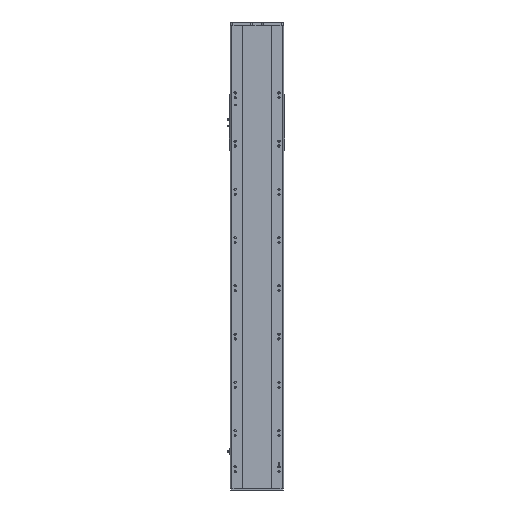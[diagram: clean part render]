
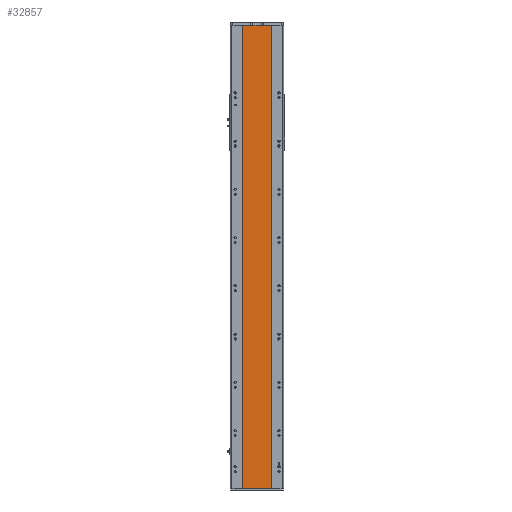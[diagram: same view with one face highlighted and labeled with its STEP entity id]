
A CAD part, front view. The second image highlights one B-rep face of the part: STEP entity #32857.
In plain terms, the highlighted planar face has unit normal (0, -1, 0).
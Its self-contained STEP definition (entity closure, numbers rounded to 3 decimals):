
#528 = CARTESIAN_POINT ( 'NONE',  ( 59., 1., 960.5 ) ) ;
#2921 = CARTESIAN_POINT ( 'NONE',  ( -59., 1., 960.5 ) ) ;
#3268 = VECTOR ( 'NONE', #11800, 1000. ) ;
#5160 = VECTOR ( 'NONE', #15112, 1000. ) ;
#6005 = DIRECTION ( 'NONE',  ( 0., 0., -1. ) ) ;
#6045 = CARTESIAN_POINT ( 'NONE',  ( -59., 1., -960.5 ) ) ;
#6701 = EDGE_CURVE ( 'NONE', #33678, #37622, #33597, .T. ) ;
#8961 = CARTESIAN_POINT ( 'NONE',  ( -59., 1., -960.5 ) ) ;
#11800 = DIRECTION ( 'NONE',  ( 1., 0., 0. ) ) ;
#13183 = CARTESIAN_POINT ( 'NONE',  ( 59., 1., 960.5 ) ) ;
#13332 = EDGE_CURVE ( 'NONE', #29587, #16784, #16196, .T. ) ;
#13431 = FACE_OUTER_BOUND ( 'NONE', #31294, .T. ) ;
#15112 = DIRECTION ( 'NONE',  ( 1., 0., 0. ) ) ;
#15621 = LINE ( 'NONE', #13183, #32019 ) ;
#16196 = LINE ( 'NONE', #8961, #5160 ) ;
#16784 = VERTEX_POINT ( 'NONE', #27221 ) ;
#18040 = EDGE_CURVE ( 'NONE', #33678, #29587, #20179, .T. ) ;
#18074 = AXIS2_PLACEMENT_3D ( 'NONE', #27232, #24151, #27372 ) ;
#19376 = CARTESIAN_POINT ( 'NONE',  ( -59., 1., 960.5 ) ) ;
#20179 = LINE ( 'NONE', #37051, #29769 ) ;
#24151 = DIRECTION ( 'NONE',  ( 0., 1., 0. ) ) ;
#25067 = DIRECTION ( 'NONE',  ( 0., 0., -1. ) ) ;
#26592 = ORIENTED_EDGE ( 'NONE', *, *, #6701, .F. ) ;
#27221 = CARTESIAN_POINT ( 'NONE',  ( 59., 1., -960.5 ) ) ;
#27232 = CARTESIAN_POINT ( 'NONE',  ( -59., 1., 960.5 ) ) ;
#27372 = DIRECTION ( 'NONE',  ( -1., 0., 0. ) ) ;
#29587 = VERTEX_POINT ( 'NONE', #6045 ) ;
#29769 = VECTOR ( 'NONE', #25067, 1000. ) ;
#31294 = EDGE_LOOP ( 'NONE', ( #39102, #39355, #26592, #38797 ) ) ;
#32019 = VECTOR ( 'NONE', #6005, 1000. ) ;
#32857 = ADVANCED_FACE ( 'NONE', ( #13431 ), #39461, .F. ) ;
#33597 = LINE ( 'NONE', #2921, #3268 ) ;
#33678 = VERTEX_POINT ( 'NONE', #19376 ) ;
#35211 = EDGE_CURVE ( 'NONE', #37622, #16784, #15621, .T. ) ;
#37051 = CARTESIAN_POINT ( 'NONE',  ( -59., 1., 960.5 ) ) ;
#37622 = VERTEX_POINT ( 'NONE', #528 ) ;
#38797 = ORIENTED_EDGE ( 'NONE', *, *, #18040, .T. ) ;
#39102 = ORIENTED_EDGE ( 'NONE', *, *, #13332, .T. ) ;
#39355 = ORIENTED_EDGE ( 'NONE', *, *, #35211, .F. ) ;
#39461 = PLANE ( 'NONE',  #18074 ) ;
